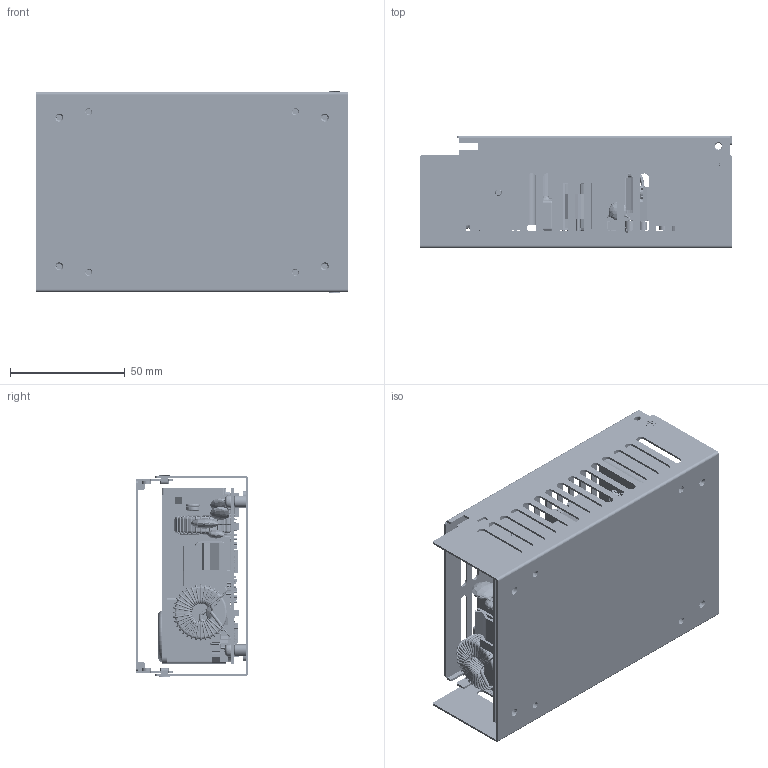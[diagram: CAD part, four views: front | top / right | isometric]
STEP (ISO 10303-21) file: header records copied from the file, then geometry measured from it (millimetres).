
FILE_DESCRIPTION (( 'STEP AP214' ), '1' );
FILE_NAME ('CFM201S成品圖組合件-SPEC.STEP', '2018-01-12T06:41:47', ( 'cincon' ), ( '' ), 'SwSTEP 2.0', 'SolidWorks 2008', '' );
FILE_SCHEMA (( 'AUTOMOTIVE_DESIGN' ));
Length unit declared in the file: millimetre
Products named in the file (34): 電晶體10mm(截腳包絕緣片)980713; CFM201S圓頭十字螺絲 M3x12mm整組示意圖980713; 鏡射電晶體10mm(截腳)980713; 橋式整流器電晶體整組示意圖980713_預設; 電晶體10mm(截腳)980713; VR1 980713_預設; CFM201S散熱片1-970115; 3 PIN插座(2PIN)971208; CFM201S散熱片2; CFM201S變壓器C980709; 8 PIN插座980709; 電晶體10mm(截腳包絕緣片-雙)980713; 鏡射平頭十字螺絲 M3x4mm參考1_預設; 圓頭十字螺絲_華司 M3x6示意圖; 平頭十字螺絲 M3x4mm參考_預設; 3inx5in金屬外殼 上蓋(CFM100)(M-B079-00-J)G6680010101_預設; 金屬外殼下蓋(CFMXXX) 六角銅柱; CFM201S固定片; 3inx5in 金屬外殼下蓋(CFM100)(M-B080-01-J)G6680020101_預設; 3inx5in 金屬外殼下蓋(CFM100)(M-B080-01-J)G6680020101; CFM201S CY3 980727; CFM201S L3; CFM201S L5; CFM201S L2; CFM201S LF2; CFM201S LF1; CFM201S CT; CFM201S C24; 2 PIN插座960713; CFM201S M3x10L螺絲(大頭頭型)980713; CFM201S變壓器B980708; CFM201S變壓器A980708; CFM201S PCBªO; CFM201S成品圖組合件-SPEC
Assembly tree (45 placements, depth 3):
  CFM201S成品圖組合件-SPEC
    CFM201S M3x10L螺絲(大頭頭型)980713  x2
    CFM201S LF1
    CFM201S L3
    CFM201S LF2
    橋式整流器電晶體整組示意圖980713_預設
    CFM201S變壓器B980708
    電晶體10mm(截腳包絕緣片-雙)980713
    CFM201S圓頭十字螺絲 M3x12mm整組示意圖980713  x2
    CFM201S變壓器A980708
    CFM201S變壓器C980709
    8 PIN插座980709
    VR1 980713_預設
    CFM201S散熱片2
    鏡射電晶體10mm(截腳)980713  x2
    電晶體10mm(截腳)980713  x2
    3 PIN插座(2PIN)971208
    CFM201S CT
    平頭十字螺絲 M3x4mm參考_預設
    CFM201S CY3 980727
    CFM201S散熱片1-970115
    圓頭十字螺絲_華司 M3x6示意圖  x4
    CFM201S L5
    CFM201S固定片
    CFM201S PCBªO
    CFM201S C24
    2 PIN插座960713  x2
    電晶體10mm(截腳包絕緣片)980713  x2
    3inx5in金屬外殼 上蓋(CFM100)(M-B079-00-J)G6680010101_預設
    3inx5in 金屬外殼下蓋(CFM100)(M-B080-01-J)G6680020101
      金屬外殼下蓋(CFMXXX) 六角銅柱  x4
      3inx5in 金屬外殼下蓋(CFM100)(M-B080-01-J)G6680020101_預設
    CFM201S L2
    鏡射平頭十字螺絲 M3x4mm參考1_預設
Bounding box: 136 x 48.9 x 88 mm (x, y, z)
Volume: 161813 mm3; surface area: 159330.6 mm2
Topology: 56 solids, 60 shells, 8315 faces, 23142 edges, 14865 vertices
Faces by surface type: cylinder 3590, plane 2650, torus 1534, bspline 355, cone 144, sphere 42
Full cylindrical faces by diameter (mm): 0.45 x1
Entity records: 289520 total; most frequent: CARTESIAN_POINT 93021, ORIENTED_EDGE 42040, DIRECTION 40465, EDGE_CURVE 21020, AXIS2_PLACEMENT_3D 15926, VERTEX_POINT 13527, CIRCLE 8681, VECTOR 8613
